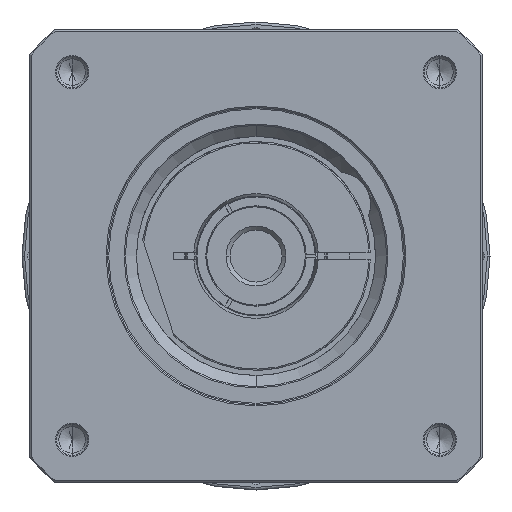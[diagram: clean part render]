
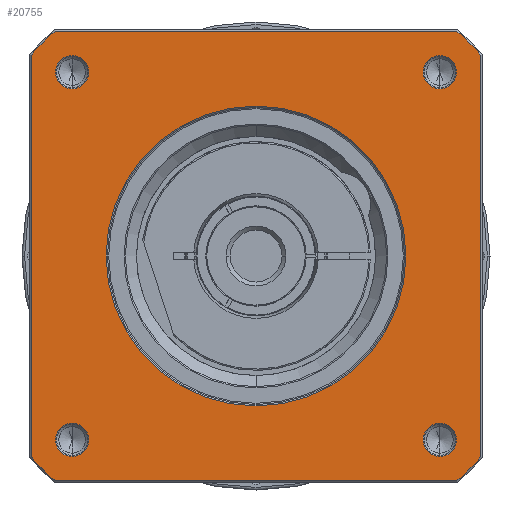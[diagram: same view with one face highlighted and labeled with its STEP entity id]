
A CAD part, left-side view. The second image highlights one B-rep face of the part: STEP entity #20755.
In plain terms, the highlighted planar face has unit normal (-1, 0, 0) as drawn and (0, 0, 1) by its records, which use the part's own axes.
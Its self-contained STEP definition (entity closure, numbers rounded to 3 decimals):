
#19506=CARTESIAN_POINT('',(0.,0.,
76.));
#19507=DIRECTION('',(0.,0.,-1.));
#19508=DIRECTION('',(0.,-1.,0.));
#19509=AXIS2_PLACEMENT_3D('',#19506,#19507,#19508);
#19511=CARTESIAN_POINT('',(0.,0.,
76.));
#19512=DIRECTION('',(0.,0.,-1.));
#19513=DIRECTION('',(0.,1.,0.));
#19514=AXIS2_PLACEMENT_3D('',#19511,#19512,#19513);
#19516=CARTESIAN_POINT('',(0.,0.,76.));
#19517=DIRECTION('',(0.,0.,1.));
#19518=DIRECTION('',(-0.746,-0.666,0.));
#19519=AXIS2_PLACEMENT_3D('',#19516,#19517,#19518);
#19531=DIRECTION('',(1.,0.,0.));
#19532=VECTOR('',#19531,154.58);
#19533=CARTESIAN_POINT('',(-77.29,-86.5,76.));
#19534=LINE('',#19533,#19532);
#19544=CARTESIAN_POINT('',(0.,0.,76.));
#19545=DIRECTION('',(0.,0.,1.));
#19546=DIRECTION('',(0.666,-0.746,0.));
#19547=AXIS2_PLACEMENT_3D('',#19544,#19545,#19546);
#19559=DIRECTION('',(0.,1.,0.));
#19560=VECTOR('',#19559,154.58);
#19561=CARTESIAN_POINT('',(86.5,-77.29,76.));
#19562=LINE('',#19561,#19560);
#19572=CARTESIAN_POINT('',(0.,0.,76.));
#19573=DIRECTION('',(0.,0.,1.));
#19574=DIRECTION('',(0.746,0.666,0.));
#19575=AXIS2_PLACEMENT_3D('',#19572,#19573,#19574);
#19587=DIRECTION('',(-1.,0.,0.));
#19588=VECTOR('',#19587,154.58);
#19589=CARTESIAN_POINT('',(77.29,86.5,76.));
#19590=LINE('',#19589,#19588);
#19595=CARTESIAN_POINT('',(0.,0.,76.));
#19596=DIRECTION('',(0.,0.,1.));
#19597=DIRECTION('',(-0.666,0.746,0.));
#19598=AXIS2_PLACEMENT_3D('',#19595,#19596,#19597);
#19615=DIRECTION('',(0.,-1.,0.));
#19616=VECTOR('',#19615,154.58);
#19617=CARTESIAN_POINT('',(-86.5,77.29,76.));
#19618=LINE('',#19617,#19616);
#19701=CARTESIAN_POINT('',(-70.711,70.711,76.));
#19702=DIRECTION('',(0.,0.,1.));
#19703=DIRECTION('',(-1.,0.,0.));
#19704=AXIS2_PLACEMENT_3D('',#19701,#19702,#19703);
#19719=CARTESIAN_POINT('',(-70.711,70.711,76.));
#19720=DIRECTION('',(0.,0.,1.));
#19721=DIRECTION('',(1.,0.,0.));
#19722=AXIS2_PLACEMENT_3D('',#19719,#19720,#19721);
#19755=CARTESIAN_POINT('',(70.711,70.711,76.));
#19756=DIRECTION('',(0.,0.,1.));
#19757=DIRECTION('',(-1.,0.,0.));
#19758=AXIS2_PLACEMENT_3D('',#19755,#19756,#19757);
#19773=CARTESIAN_POINT('',(70.711,70.711,76.));
#19774=DIRECTION('',(0.,0.,1.));
#19775=DIRECTION('',(1.,0.,0.));
#19776=AXIS2_PLACEMENT_3D('',#19773,#19774,#19775);
#19809=CARTESIAN_POINT('',(70.711,-70.711,76.));
#19810=DIRECTION('',(0.,0.,1.));
#19811=DIRECTION('',(-1.,0.,0.));
#19812=AXIS2_PLACEMENT_3D('',#19809,#19810,#19811);
#19827=CARTESIAN_POINT('',(70.711,-70.711,76.));
#19828=DIRECTION('',(0.,0.,1.));
#19829=DIRECTION('',(1.,0.,0.));
#19830=AXIS2_PLACEMENT_3D('',#19827,#19828,#19829);
#19863=CARTESIAN_POINT('',(-70.711,-70.711,76.));
#19864=DIRECTION('',(0.,0.,1.));
#19865=DIRECTION('',(-1.,0.,0.));
#19866=AXIS2_PLACEMENT_3D('',#19863,#19864,#19865);
#19881=CARTESIAN_POINT('',(-70.711,-70.711,76.));
#19882=DIRECTION('',(0.,0.,1.));
#19883=DIRECTION('',(1.,0.,0.));
#19884=AXIS2_PLACEMENT_3D('',#19881,#19882,#19883);
#20013=CARTESIAN_POINT('',(86.5,-77.29,76.));
#20014=CARTESIAN_POINT('',(86.5,77.29,76.));
#20015=VERTEX_POINT('',#20013);
#20016=VERTEX_POINT('',#20014);
#20021=CARTESIAN_POINT('',(77.29,-86.5,76.));
#20022=VERTEX_POINT('',#20021);
#20025=CARTESIAN_POINT('',(-77.29,-86.5,76.));
#20026=VERTEX_POINT('',#20025);
#20029=CARTESIAN_POINT('',(-86.5,-77.29,76.));
#20030=VERTEX_POINT('',#20029);
#20033=CARTESIAN_POINT('',(-86.5,77.29,76.));
#20034=VERTEX_POINT('',#20033);
#20037=CARTESIAN_POINT('',(-77.29,86.5,76.));
#20038=VERTEX_POINT('',#20037);
#20041=CARTESIAN_POINT('',(77.29,86.5,76.));
#20042=VERTEX_POINT('',#20041);
#20051=CARTESIAN_POINT('',(-77.111,70.711,76.));
#20052=CARTESIAN_POINT('',(-64.311,70.711,76.));
#20053=VERTEX_POINT('',#20051);
#20054=VERTEX_POINT('',#20052);
#20077=CARTESIAN_POINT('',(77.111,70.711,76.));
#20078=CARTESIAN_POINT('',(64.311,70.711,76.));
#20079=VERTEX_POINT('',#20077);
#20080=VERTEX_POINT('',#20078);
#20085=CARTESIAN_POINT('',(77.111,-70.711,76.));
#20086=CARTESIAN_POINT('',(64.311,-70.711,76.));
#20087=VERTEX_POINT('',#20085);
#20088=VERTEX_POINT('',#20086);
#20093=CARTESIAN_POINT('',(-64.311,-70.711,76.));
#20094=CARTESIAN_POINT('',(-77.111,-70.711,76.));
#20095=VERTEX_POINT('',#20093);
#20096=VERTEX_POINT('',#20094);
#20101=CARTESIAN_POINT('',(0.,-57.65,76.));
#20102=CARTESIAN_POINT('',(0.,57.65,
76.));
#20103=VERTEX_POINT('',#20101);
#20104=VERTEX_POINT('',#20102);
#20703=CARTESIAN_POINT('',(0.,0.,76.));
#20704=DIRECTION('',(0.,0.,1.));
#20705=DIRECTION('',(1.,0.,0.));
#20706=AXIS2_PLACEMENT_3D('',#20703,#20704,#20705);
#20707=PLANE('',#20706);
#20709=ORIENTED_EDGE('',*,*,#20708,.F.);
#20711=ORIENTED_EDGE('',*,*,#20710,.F.);
#20713=ORIENTED_EDGE('',*,*,#20712,.F.);
#20715=ORIENTED_EDGE('',*,*,#20714,.F.);
#20717=ORIENTED_EDGE('',*,*,#20716,.F.);
#20719=ORIENTED_EDGE('',*,*,#20718,.F.);
#20721=ORIENTED_EDGE('',*,*,#20720,.F.);
#20723=ORIENTED_EDGE('',*,*,#20722,.F.);
#20724=EDGE_LOOP('',(#20709,#20711,#20713,#20715,#20717,#20719,#20721,#20723));
#20725=FACE_OUTER_BOUND('',#20724,.F.);
#20726=ORIENTED_EDGE('',*,*,#20693,.F.);
#20728=ORIENTED_EDGE('',*,*,#20727,.F.);
#20729=EDGE_LOOP('',(#20726,#20728));
#20730=FACE_BOUND('',#20729,.F.);
#20732=ORIENTED_EDGE('',*,*,#20731,.T.);
#20734=ORIENTED_EDGE('',*,*,#20733,.T.);
#20735=EDGE_LOOP('',(#20732,#20734));
#20736=FACE_BOUND('',#20735,.F.);
#20738=ORIENTED_EDGE('',*,*,#20737,.T.);
#20740=ORIENTED_EDGE('',*,*,#20739,.T.);
#20741=EDGE_LOOP('',(#20738,#20740));
#20742=FACE_BOUND('',#20741,.F.);
#20744=ORIENTED_EDGE('',*,*,#20743,.T.);
#20746=ORIENTED_EDGE('',*,*,#20745,.T.);
#20747=EDGE_LOOP('',(#20744,#20746));
#20748=FACE_BOUND('',#20747,.F.);
#20750=ORIENTED_EDGE('',*,*,#20749,.T.);
#20752=ORIENTED_EDGE('',*,*,#20751,.T.);
#20753=EDGE_LOOP('',(#20750,#20752));
#20754=FACE_BOUND('',#20753,.F.);
#20755=ADVANCED_FACE('',(#20725,#20730,#20736,#20742,#20748,#20754),#20707,.T.);
#19510=CIRCLE('',#19509,57.65);
#19515=CIRCLE('',#19514,57.65);
#19520=CIRCLE('',#19519,116.);
#19548=CIRCLE('',#19547,116.);
#19576=CIRCLE('',#19575,116.);
#19599=CIRCLE('',#19598,116.);
#19705=CIRCLE('',#19704,6.4);
#19723=CIRCLE('',#19722,6.4);
#19759=CIRCLE('',#19758,6.4);
#19777=CIRCLE('',#19776,6.4);
#19813=CIRCLE('',#19812,6.4);
#19831=CIRCLE('',#19830,6.4);
#19867=CIRCLE('',#19866,6.4);
#19885=CIRCLE('',#19884,6.4);
#20693=EDGE_CURVE('',#20103,#20104,#19510,.T.);
#20708=EDGE_CURVE('',#20030,#20026,#19520,.T.);
#20710=EDGE_CURVE('',#20034,#20030,#19618,.T.);
#20712=EDGE_CURVE('',#20038,#20034,#19599,.T.);
#20714=EDGE_CURVE('',#20042,#20038,#19590,.T.);
#20716=EDGE_CURVE('',#20016,#20042,#19576,.T.);
#20718=EDGE_CURVE('',#20015,#20016,#19562,.T.);
#20720=EDGE_CURVE('',#20022,#20015,#19548,.T.);
#20722=EDGE_CURVE('',#20026,#20022,#19534,.T.);
#20727=EDGE_CURVE('',#20104,#20103,#19515,.T.);
#20731=EDGE_CURVE('',#20053,#20054,#19705,.T.);
#20733=EDGE_CURVE('',#20054,#20053,#19723,.T.);
#20737=EDGE_CURVE('',#20080,#20079,#19759,.T.);
#20739=EDGE_CURVE('',#20079,#20080,#19777,.T.);
#20743=EDGE_CURVE('',#20088,#20087,#19813,.T.);
#20745=EDGE_CURVE('',#20087,#20088,#19831,.T.);
#20749=EDGE_CURVE('',#20096,#20095,#19867,.T.);
#20751=EDGE_CURVE('',#20095,#20096,#19885,.T.);
